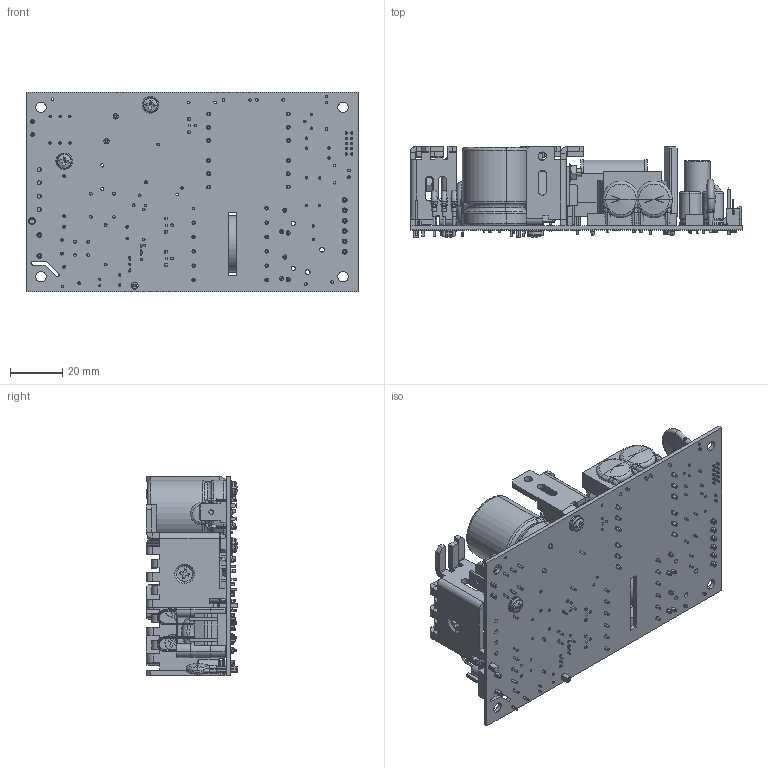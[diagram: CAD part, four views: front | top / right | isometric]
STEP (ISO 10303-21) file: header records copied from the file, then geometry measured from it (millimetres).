
FILE_DESCRIPTION (( 'STEP AP214' ), '1' );
FILE_NAME ('GCS250PSXX.STEP', '2014-06-25T21:23:59', ( '' ), ( '' ), 'SwSTEP 2.0', 'SolidWorks 2012', '' );
FILE_SCHEMA (( 'AUTOMOTIVE_DESIGN' ));
Length unit declared in the file: inch
Products named in the file (36): Therm_.350 D X .250 LS; Conn_JST_S10B-PHDSS-B_Vertical; Capacitor Elec_05mm D_11mm H; Capacitor Elec_08mm D_13mm H; Screw_Flat Head Phillips (Metric)_(1315)_M3 x 10; Screw_Flat Head Phillips (Metric)_(1314)_M3 x 8; Nut_Keps_4-40_Star_01; TO220_3P_01; Choke Output Rod; Conn_MLX_KK100_Hdr_02P; Capacitor Disc_0.500 D_0.400" C; CAP FILM_17x11x21MM_15LS; Screw_Sq Cone_no 4_01_.250"; CAP FILM_17x5x11MM_15LS; Inductor Toroid_20.0mm OD_10mm Width; L4; Capacitor Disc_0.550 D_0.400" C; Capacitor Elec_10mm D_25mm; Faston .25 X .032; Pot_Top adj_Type1_01; RES-3W; TO92_01; Capacitor Film_18x11mm_15 LS_19mm H; Inductor Toroid_18.0mm OD_7mm Width; Bridge Rectifier_GBU6K_Lead trimed; Capacitor Disc_0.300 D X .40 LS; FUSE-0; CON MLX  .156 06P; CON MLX  .156 3P; Capacitor Elec_25mm D_30mm H; 1001510201; 1001510303; Xfmr_GCS150; 10015867A0; 10015063A0; GCS250PSXX
Assembly tree (56 placements, depth 2):
  GCS250PSXX
    10015063A0
    10015867A0  x2
    Xfmr_GCS150
    1001510303
    1001510201
    Capacitor Elec_25mm D_30mm H
    CON MLX  .156 3P
    CON MLX  .156 06P
    FUSE-0  x2
    Capacitor Disc_0.300 D X .40 LS  x3
    Bridge Rectifier_GBU6K_Lead trimed
    Inductor Toroid_18.0mm OD_7mm Width  x2
    Capacitor Film_18x11mm_15 LS_19mm H
    TO92_01  x2
    RES-3W  x2
    Pot_Top adj_Type1_01
    Faston .25 X .032
    Capacitor Elec_10mm D_25mm  x3
    Capacitor Disc_0.550 D_0.400" C  x2
    L4
    Inductor Toroid_20.0mm OD_10mm Width
    CAP FILM_17x5x11MM_15LS  x2
    Screw_Sq Cone_no 4_01_.250"  x2
    CAP FILM_17x11x21MM_15LS
    Capacitor Disc_0.500 D_0.400" C  x2
    Conn_MLX_KK100_Hdr_02P
    Choke Output Rod
    TO220_3P_01  x3
    Nut_Keps_4-40_Star_01  x4
    Screw_Flat Head Phillips (Metric)_(1314)_M3 x 8  x3
    Screw_Flat Head Phillips (Metric)_(1315)_M3 x 10
    Capacitor Elec_08mm D_13mm H  x2
    Capacitor Elec_05mm D_11mm H
    Conn_JST_S10B-PHDSS-B_Vertical
    Therm_.350 D X .250 LS
Bounding box: 127 x 34.92 x 76.21 mm (x, y, z)
Volume: 106819.4 mm3; surface area: 75808.1 mm2
Topology: 84 solids, 95 shells, 3201 faces, 7716 edges, 4824 vertices
Faces by surface type: plane 1656, cylinder 953, cone 224, torus 198, bspline 148, sphere 22
Entity records: 85767 total; most frequent: CARTESIAN_POINT 15103, DIRECTION 11851, ORIENTED_EDGE 11034, EDGE_CURVE 5517, AXIS2_PLACEMENT_3D 4219, VERTEX_POINT 3475, LINE 3413, VECTOR 3413
